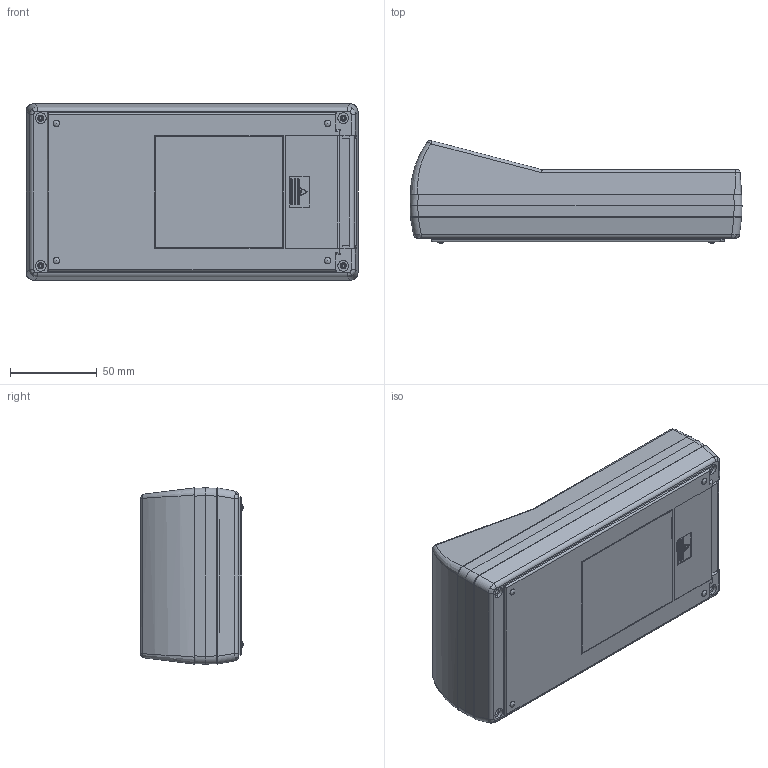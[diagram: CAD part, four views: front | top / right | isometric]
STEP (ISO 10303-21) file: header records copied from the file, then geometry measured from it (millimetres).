
FILE_DESCRIPTION (( 'STEP AP214' ), '1' );
FILE_NAME ('90-51-9V-E-R.STEP', '2019-12-01T17:22:39', ( 'Rudy' ), ( '' ), 'SwSTEP 2.0', 'SolidWorks 2014', '' );
FILE_SCHEMA (( 'AUTOMOTIVE_DESIGN' ));
Length unit declared in the file: millimetre
Products named in the file (6): 100-06 EXPANDER; 9Vdoor; 100 bessel; 100 Top Angled LCD; 100-01 BOT-9V; 90-51-9V-E-R
Assembly tree (5 placements, depth 2):
  90-51-9V-E-R
    100-01 BOT-9V
    100 Top Angled LCD
    100 bessel
    9Vdoor
    100-06 EXPANDER
Bounding box: 191 x 59.13 x 101.4 mm (x, y, z)
Volume: 152704.5 mm3; surface area: 149386.9 mm2
Topology: 5 solids, 5 shells, 694 faces, 1810 edges, 1149 vertices
Faces by surface type: plane 422, cylinder 188, cone 40, bspline 24, torus 12, sphere 8
Entity records: 22579 total; most frequent: CARTESIAN_POINT 5767, ORIENTED_EDGE 3584, DIRECTION 3243, EDGE_CURVE 1792, VECTOR 1245, LINE 1245, VERTEX_POINT 1141, AXIS2_PLACEMENT_3D 999
